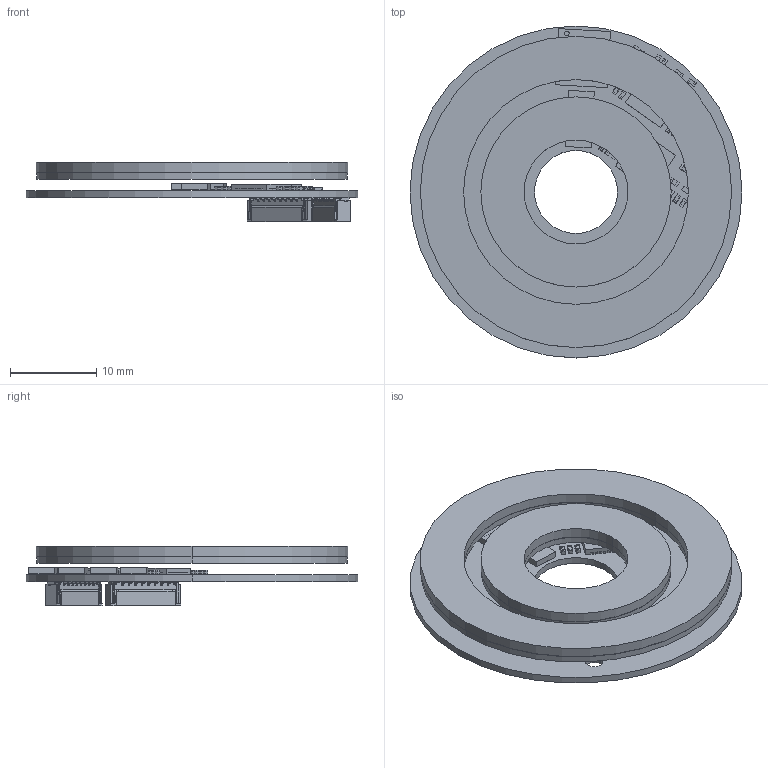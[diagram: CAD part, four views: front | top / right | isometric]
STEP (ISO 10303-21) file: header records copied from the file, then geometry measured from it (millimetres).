
FILE_DESCRIPTION((''),'2;1');
FILE_NAME('EAS-J048KM-HD----2¸öMCU_ASM','2026-09-02T',('guxinfeng'),(''),'PRO/ENGINEER BY PARAMETRIC TECHNOLOGY CORPORATION, 2012480','PRO/ENGINEER BY PARAMETRIC TECHNOLOGY CORPORATION, 2012480','');
FILE_SCHEMA(('CONFIG_CONTROL_DESIGN'));
Length unit declared in the file: millimetre
Products named in the file (110): OPEN_CASCADE_STEP_TRANSLATO-194; BOARD_ASM; HC-0_8-8PLT_RGB8421504; P2_ASM; P1_ASM; BBE-T6P1000A33_RGB8421504; U4_ASM; U1_ASM; QFN32; SPC1168LAPI32-QFN32_RGB8421504_ASM; U6_ASM; MID_BODY-39873; OPEN_CASCADE_STEP_TRANSLA-40059; TERMINAL-40049_ASM; MARK-40371; 6167265504_ASM; R8_ASM; EXTRUDED; 7323299152_ASM; D2_ASM; OPEN_CASCADE_STEP_TRANSLA-40826; OPEN_CASCADE_STEP_TRANSLA-41299; TERMINAL-40812_ASM; OPEN_CASCADE_STEP_TRANSLA-41795; MID_BODY-41785_ASM; 6375993296_ASM; C20_ASM; C19_ASM; C18_ASM; C17_ASM; OPEN_CASCADE_STEP_TRANSLA-42265; OPEN_CASCADE_STEP_TRANSLA-42738; TERMINAL-42251_ASM; OPEN_CASCADE_STEP_TRANSLA-43234; MID_BODY-43224_ASM; 7053789392_ASM; C12_ASM; C11_ASM; C10_ASM; OPEN_CASCADE_STEP_TRANSLA-43676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
Assembly tree (138 placements, depth 8):
  EAS-J048KM-HD----2ｸCU_ASM
    PCB_ASM
      BOARD_ASM
        OPEN_CASCADE_STEP_TRANSLATO-194
      P2_ASM
        HC-0_8-8PLT_RGB8421504
      P1_ASM
        HC-0_8-8PLT_RGB8421504
      U4_ASM
        BBE-T6P1000A33_RGB8421504
      U1_ASM
        BBE-T6P1000A33_RGB8421504
      U6_ASM
        SPC1168LAPI32-QFN32_RGB8421504_ASM
          QFN32
      R8_ASM
        6167265504_ASM
          MID_BODY-39873
          TERMINAL-40049_ASM  x2
            OPEN_CASCADE_STEP_TRANSLA-40059
          MARK-40371
      D2_ASM
        7323299152_ASM
          EXTRUDED
      C20_ASM
        6375993296_ASM
          TERMINAL-40812_ASM
            OPEN_CASCADE_STEP_TRANSLA-40826
            OPEN_CASCADE_STEP_TRANSLA-41299
          MID_BODY-41785_ASM
            OPEN_CASCADE_STEP_TRANSLA-41795
      C19_ASM
        6375993296_ASM
          TERMINAL-40812_ASM
            OPEN_CASCADE_STEP_TRANSLA-40826
            OPEN_CASCADE_STEP_TRANSLA-41299
          MID_BODY-41785_ASM
            OPEN_CASCADE_STEP_TRANSLA-41795
      C18_ASM
        6375993296_ASM
          TERMINAL-40812_ASM
            OPEN_CASCADE_STEP_TRANSLA-40826
            OPEN_CASCADE_STEP_TRANSLA-41299
          MID_BODY-41785_ASM
            OPEN_CASCADE_STEP_TRANSLA-41795
      C17_ASM
        6375993296_ASM
          TERMINAL-40812_ASM
            OPEN_CASCADE_STEP_TRANSLA-40826
            OPEN_CASCADE_STEP_TRANSLA-41299
          MID_BODY-41785_ASM
            OPEN_CASCADE_STEP_TRANSLA-41795
      C12_ASM
        7053789392_ASM
          TERMINAL-42251_ASM
            OPEN_CASCADE_STEP_TRANSLA-42265
            OPEN_CASCADE_STEP_TRANSLA-42738
          MID_BODY-43224_ASM
            OPEN_CASCADE_STEP_TRANSLA-43234
      C11_ASM
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Bounding box: 38.4 x 38.4 x 6.84 mm (x, y, z)
Volume: 2449.8 mm3; surface area: 6657.6 mm2
Topology: 107 solids, 109 shells, 3612 faces, 10016 edges, 6344 vertices
Faces by surface type: plane 2434, cylinder 1010, sphere 160, cone 8
Entity records: 63686 total; most frequent: CARTESIAN_POINT 9379, DIRECTION 8881, ORIENTED_EDGE 8698, EDGE_CURVE 4349, VECTOR 3473, LINE 3473, PRESENTATION_STYLE_ASSIGNMENT 3381, STYLED_ITEM 3381
